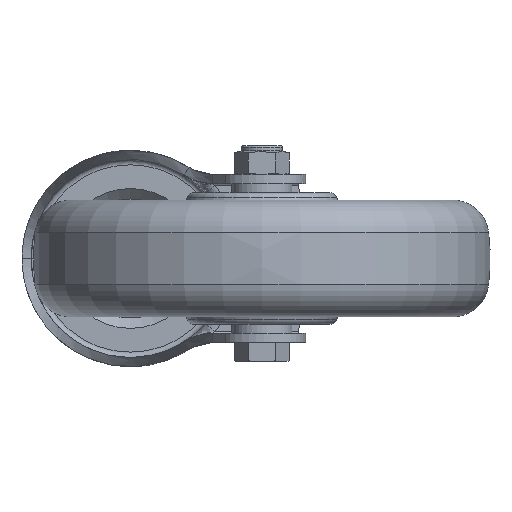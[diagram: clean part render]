
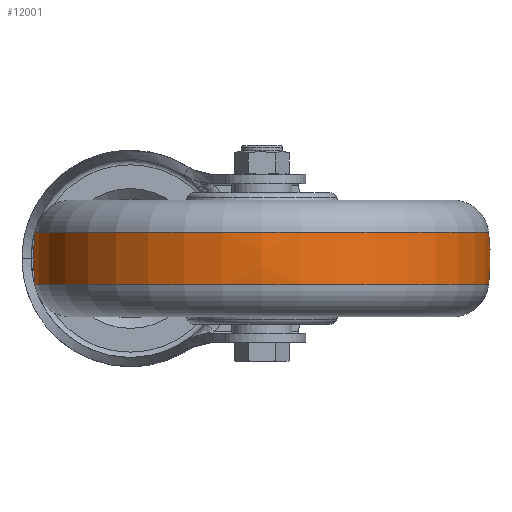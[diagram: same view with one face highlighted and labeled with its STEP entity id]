
A CAD part, front view. The second image highlights one B-rep face of the part: STEP entity #12001.
In plain terms, the highlighted free-form (B-spline) face has degree [3, 3] with [7, 4] control points.
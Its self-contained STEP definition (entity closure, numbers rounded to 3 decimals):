
#11393=CARTESIAN_POINT('',(-7.2,0.,0.));
#11394=DIRECTION('',(-1.,0.,0.));
#11395=DIRECTION('',(0.,1.,0.));
#11396=AXIS2_PLACEMENT_3D('',#11393,#11394,#11395);
#11408=CARTESIAN_POINT('',(0.,2.5,0.));
#11409=DIRECTION('',(0.,0.,1.));
#11410=DIRECTION('',(0.12,0.993,0.));
#11411=AXIS2_PLACEMENT_3D('',#11408,#11409,#11410);
#11413=CARTESIAN_POINT('',(0.,-2.5,0.));
#11414=DIRECTION('',(0.,0.,-1.));
#11415=DIRECTION('',(0.12,-0.993,0.));
#11416=AXIS2_PLACEMENT_3D('',#11413,#11414,#11415);
#11418=CARTESIAN_POINT('',(7.2,0.,0.));
#11419=DIRECTION('',(-1.,0.,0.));
#11420=DIRECTION('',(0.,1.,0.));
#11421=AXIS2_PLACEMENT_3D('',#11418,#11419,#11420);
#11642=CARTESIAN_POINT('',(-7.2,62.066,0.));
#11644=VERTEX_POINT('',#11642);
#11646=CARTESIAN_POINT('',(-7.2,-62.066,
0.));
#11648=VERTEX_POINT('',#11646);
#11675=CARTESIAN_POINT('',(7.2,62.066,0.));
#11677=VERTEX_POINT('',#11675);
#11679=CARTESIAN_POINT('',(7.2,-62.066,
0.));
#11681=VERTEX_POINT('',#11679);
#11965=CARTESIAN_POINT('',(-7.487,-61.909,
3.895));
#11966=CARTESIAN_POINT('',(-2.509,-62.533,
3.934));
#11967=CARTESIAN_POINT('',(2.509,-62.533,
3.934));
#11968=CARTESIAN_POINT('',(7.487,-61.909,
3.895));
#11969=CARTESIAN_POINT('',(-7.487,-64.306,
-34.204));
#11970=CARTESIAN_POINT('',(-2.509,-64.955,
-34.549));
#11971=CARTESIAN_POINT('',(2.509,-64.955,
-34.549));
#11972=CARTESIAN_POINT('',(7.487,-64.306,
-34.204));
#11973=CARTESIAN_POINT('',(-7.487,-38.174,
-62.031));
#11974=CARTESIAN_POINT('',(-2.509,-38.559,
-62.657));
#11975=CARTESIAN_POINT('',(2.509,-38.559,
-62.657));
#11976=CARTESIAN_POINT('',(7.487,-38.174,
-62.031));
#11977=CARTESIAN_POINT('',(-7.487,0.,
-62.031));
#11978=CARTESIAN_POINT('',(-2.509,0.,
-62.657));
#11979=CARTESIAN_POINT('',(2.509,0.,
-62.657));
#11980=CARTESIAN_POINT('',(7.487,0.,
-62.031));
#11981=CARTESIAN_POINT('',(-7.487,38.174,
-62.031));
#11982=CARTESIAN_POINT('',(-2.509,38.559,
-62.657));
#11983=CARTESIAN_POINT('',(2.509,38.559,
-62.657));
#11984=CARTESIAN_POINT('',(7.487,38.174,
-62.031));
#11985=CARTESIAN_POINT('',(-7.487,64.306,
-34.204));
#11986=CARTESIAN_POINT('',(-2.509,64.955,
-34.549));
#11987=CARTESIAN_POINT('',(2.509,64.955,
-34.549));
#11988=CARTESIAN_POINT('',(7.487,64.306,
-34.204));
#11989=CARTESIAN_POINT('',(-7.487,61.909,
3.895));
#11990=CARTESIAN_POINT('',(-2.509,62.533,
3.934));
#11991=CARTESIAN_POINT('',(2.509,62.533,3.934));
#11992=CARTESIAN_POINT('',(7.487,61.909,3.895));
#11993=(BOUNDED_SURFACE()B_SPLINE_SURFACE(3,3,((#11965,#11966,#11967,#11968),(
#11969,#11970,#11971,#11972),(#11973,#11974,#11975,#11976),(#11977,#11978,
#11979,#11980),(#11981,#11982,#11983,#11984),(#11985,#11986,#11987,#11988),(
#11989,#11990,#11991,#11992)),.UNSPECIFIED.,.F.,.F.,.F.)B_SPLINE_SURFACE_WITH_KNOTS((4,3,4),(4,4),(0.,1.,2.),(0.,1.),.UNSPECIFIED.)GEOMETRIC_REPRESENTATION_ITEM()RATIONAL_B_SPLINE_SURFACE(((1.192,1.186,
1.186,1.192),(0.941,0.936,
0.936,0.941),(0.941,0.936,
0.936,0.941),(1.192,1.186,
1.186,1.192),(0.941,0.936,
0.936,0.941),(0.941,0.936,
0.936,0.941),(1.192,1.186,
1.186,1.192)))REPRESENTATION_ITEM('')SURFACE());
#11994=ORIENTED_EDGE('',*,*,#11955,.T.);
#11995=ORIENTED_EDGE('',*,*,#11908,.T.);
#11996=ORIENTED_EDGE('',*,*,#11959,.F.);
#11998=ORIENTED_EDGE('',*,*,#11997,.F.);
#11999=EDGE_LOOP('',(#11994,#11995,#11996,#11998));
#12000=FACE_OUTER_BOUND('',#11999,.F.);
#11397=CIRCLE('',#11396,62.066);
#11412=CIRCLE('',#11411,60.);
#11417=CIRCLE('',#11416,60.);
#11422=CIRCLE('',#11421,62.066);
#11908=EDGE_CURVE('',#11644,#11648,#11397,.T.);
#11955=EDGE_CURVE('',#11677,#11644,#11412,.T.);
#11959=EDGE_CURVE('',#11681,#11648,#11417,.T.);
#11997=EDGE_CURVE('',#11677,#11681,#11422,.T.);
#12001=ADVANCED_FACE('',(#12000),#11993,.T.);
